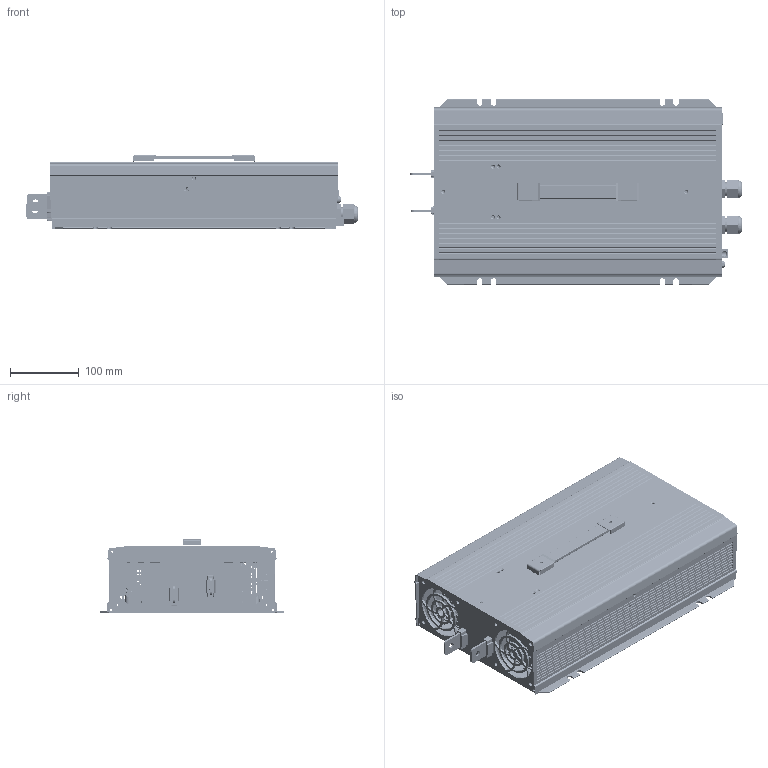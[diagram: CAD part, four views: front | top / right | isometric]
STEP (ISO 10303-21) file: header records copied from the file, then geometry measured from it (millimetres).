
FILE_DESCRIPTION(('Creo Elements/Direct Modeling STEP Export'),'2;1');
FILE_NAME('NTU-3200-TB.stp','2022-03-28T19:31:00',(''),(''),'PTC Creo Elements/Direct Modeling STEP processor for AP214 (Solid Model)','PTC Creo Elements/Direct Modeling 19.0E 27-Jun-2016 (C) Parametric Technology GmbH','');
FILE_SCHEMA(('AUTOMOTIVE_DESIGN { 1 0 10303 214 1 1 1 1 }'));
Length unit declared in the file: millimetre
Products named in the file (214): 零件1; _X2_96F64EF6_X0_9.PRT; _X2_96F64EF6_X0_8.PRT; _X2_96F64EF6_X0_7.PRT; _X2_96F64EF6_X0_6.PRT; _X2_96F64EF6_X0_5-13520.PRT; _X2_96F64EF6_X0_5-13850.ASM; _X2_96F64EF6_X0_5-15330.PRT; _X2_96F64EF6_X0_4-17110.PRT; _X2_96F64EF6_X0_4-17440.ASM; _X2_96F64EF6_X0_4-18920.PRT; _X2_96F64EF6_X0_3-20700.PRT; _X2_96F64EF6_X0_3-21030.ASM; _X2_96F64EF6_X0_3-22510.PRT; _X2_96F64EF6_X0_2-24290.PRT; _X2_96F64EF6_X0_2-24620.ASM; _X2_96F64EF6_X0_2-29190.PRT; _X2_96F64EF6_X0_2-30720.PRT; _X2_96F64EF6_X0_12.PRT; _X2_96F64EF6_X0_11.PRT; _X2_96F64EF6_X0_10.PRT; _X2_96F64EF6_X0_1-37090.PRT; _X2_96F64EF6_X0_1-37420.ASM; _X2_96F64EF6_X0_1-41990.PRT; _X2_96F64EF6_X0_1-43520.PRT; _X2_75355BB9_X0_-44580.PRT; _X2_75355BB9_X0_-44910.ASM; OPEN_SHELL_1-45900.PRT; OPEN_SHELL_1-46300.ASM; GUWEI1_1-60960.PRT; GUWEI1_1-61290.ASM; GUWEI1-75950.PRT; GUWEI1-76280.ASM; _S_4_X2_0192_X0__S__S_6_S-95820.PRT; _S_4_X2_0192_X0__S__S_6_S-96150.ASM; _S_4_X2_0192_X0__S_.ASM; TO220_21-104320.PRT; TO220_9.ASM; TO220_8.ASM; TO220_7.ASM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
Assembly tree (265 placements, depth 3):
  零件1
  NTU-3200-TB.stp
    111.PRT
    174-1559130.ASM
      174-1558800.PRT
    1GG1HS-SZ135A_.ASM
      1GG1HS-SZ135A__1-1552260.PRT
    1GG1HS-SZ135A__1-1552590.ASM
      1GG1HS-SZ135A__1-1552260.PRT
    1GG1HS-SZ163-1522460.ASM
      1GG1HS-SZ163-1522130.PRT
    1GG1HS-SZ163-1-1500580.ASM
      1GG1HS-SZ163-1-1500250.PRT
    1GG1HS-SZ907-1478700.ASM
      1GG1HS-SZ907-1478370.PRT
    1GG1HS-SZ908.ASM
      1GG1HS-SZ908_1-1445650.PRT
    1GG1HS-SZ908_1-1445980.ASM
      1GG1HS-SZ908_1-1445650.PRT
    1GG2MHS025J.ASM
      1GG2MHS025J_2-1398030.PRT
    1GG2MHS025J_1.ASM
      1GG2MHS025J_2-1398030.PRT
    1GG2MHS025J_2-1398640.ASM
      1GG2MHS025J_2-1398030.PRT
    1GG2MHS025J_3.ASM
      1GG2MHS025J_2-1398030.PRT
    1GG4CU-SZ075-1377080.ASM
      1GG4CU-SZ075-1376750.PRT
    1GG4CU-SZ075A-1363100.ASM
      1GG4CU-SZ075A-1362770.PRT
    1HH1-1349120.ASM
      1HH1-1348790.PRT
    1HH2NTU-3200.PRT
    1HH2NTU-3200I-1325490.ASM
      1HH2NTU-3200I-1325160.PRT
    1HH2NTU-3200J-1318730.ASM
      1HH2NTU-3200J-1318400.PRT
    1XX3NTU-3200-I-1311970.ASM
      1XX3NTU-3200-I-1311640.PRT
    1XX3NTU-3200-O-1124790.ASM
      1XX3NTU-3200-O-1124460.PRT
    555_1.ASM
      TERMINAL-117560.PRT
    77-947110.ASM
      77-946780.PRT
    BREAKER-945070.ASM
      BREAKER-944740.PRT
    CASE_TOP_PRT-929270.ASM
      CASE_TOP_PRT-928940.PRT
    CASE_TOP_PRT_1-859860.ASM
      CASE_TOP_PRT_1-859530.PRT
    CU-1-812290.ASM
      CU-1-811960.PRT
    CU-5-801190.ASM
      CU-5-800580.PRT
    CU-5_1.ASM
      CU-5-800580.PRT
    CU-8.PRT
    CU-9-755710.ASM
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Bounding box: 484.16 x 270 x 108.65 mm (x, y, z)
Volume: 2354623.2 mm3; surface area: 1988728.1 mm2
Topology: 141 solids, 141 shells, 6654 faces, 17998 edges, 11909 vertices
Faces by surface type: plane 3975, cylinder 2303, cone 243, torus 116, bspline 16, extrusion 1
Entity records: 155610 total; most frequent: CARTESIAN_POINT 29688, ORIENTED_EDGE 25792, DIRECTION 24356, EDGE_CURVE 12896, VECTOR 9156, LINE 9155, VERTEX_POINT 8510, AXIS2_PLACEMENT_3D 7600
